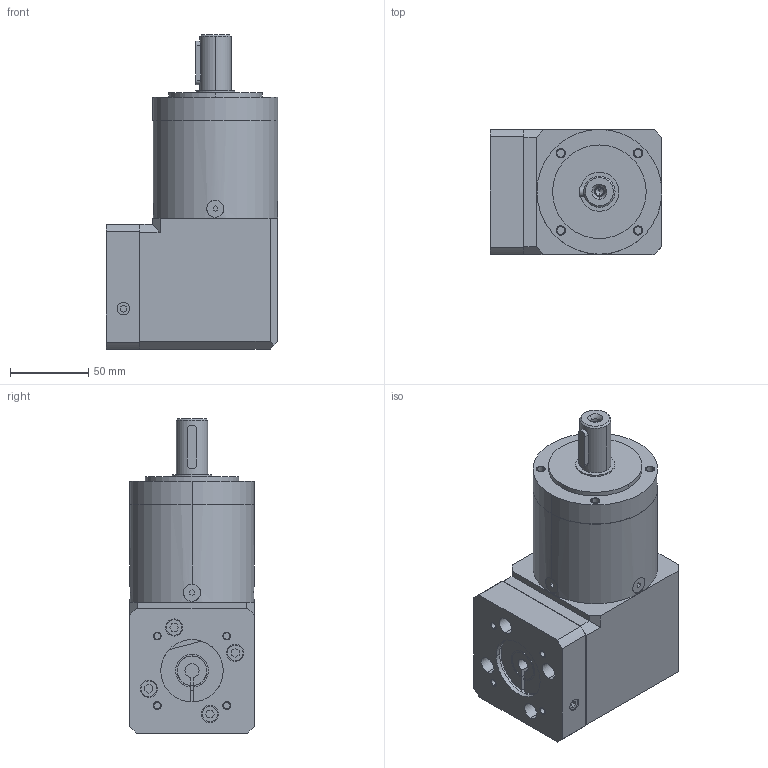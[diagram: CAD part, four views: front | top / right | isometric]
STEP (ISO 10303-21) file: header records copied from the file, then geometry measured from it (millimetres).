
FILE_DESCRIPTION((''),'2;1');
FILE_NAME('MB_WPLE_MASTER','2017-02-23T',('agw'),(''),'CREO PARAMETRIC BY PTC INC, 2015290','CREO PARAMETRIC BY PTC INC, 2015290','');
FILE_SCHEMA(('AUTOMOTIVE_DESIGN { 1 0 10303 214 1 1 1 1 }'));
Length unit declared in the file: millimetre
Products named in the file (1): MB_WPLE_MASTER
Bounding box: 110 x 80 x 201.5 mm (x, y, z)
Volume: 1102734.9 mm3; surface area: 89765.4 mm2
Topology: 1 solids, 10 shells, 271 faces, 636 edges, 413 vertices
Faces by surface type: plane 155, cylinder 104, cone 6, torus 6
Entity records: 9185 total; most frequent: CARTESIAN_POINT 1510, DIRECTION 1382, ORIENTED_EDGE 1232, EDGE_CURVE 634, AXIS2_PLACEMENT_3D 487, VERTEX_POINT 413, VECTOR 408, LINE 408
